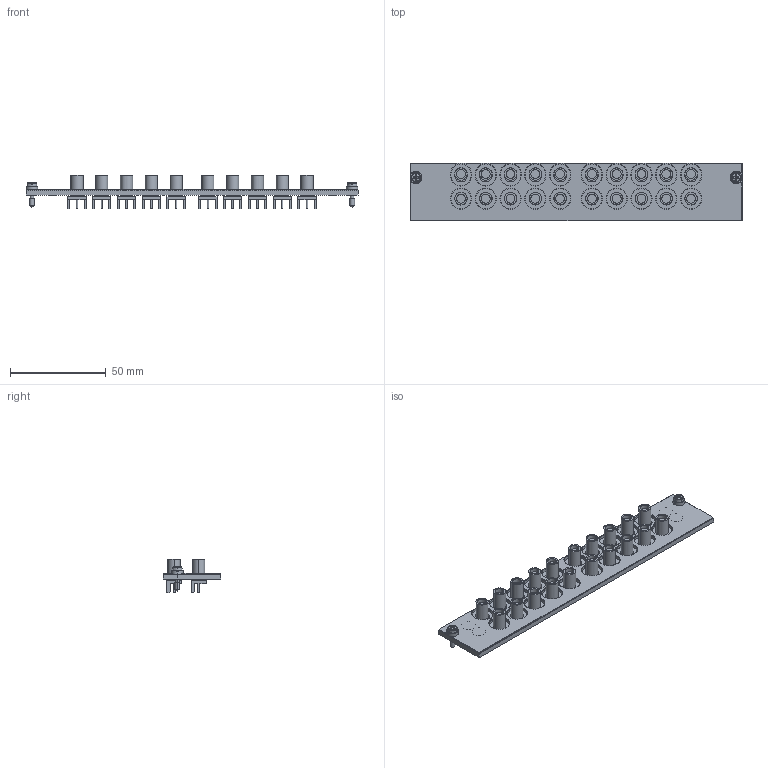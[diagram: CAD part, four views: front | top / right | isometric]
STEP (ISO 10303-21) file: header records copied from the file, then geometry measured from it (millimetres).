
FILE_DESCRIPTION((''),'2;1');
FILE_NAME('CU_SCXI-1194','2009-11-30T',('jjorden'),(''),'PRO/ENGINEER BY PARAMETRIC TECHNOLOGY CORPORATION, 2006080','PRO/ENGINEER BY PARAMETRIC TECHNOLOGY CORPORATION, 2006080','');
FILE_SCHEMA(('CONFIG_CONTROL_DESIGN'));
Length unit declared in the file: inch
Products named in the file (1): CU_SCXI-1194
Bounding box: 173.02 x 30.18 x 17.37 mm (x, y, z)
Volume: 19983.1 mm3; surface area: 24144.4 mm2
Topology: 21 solids, 21 shells, 1171 faces, 2944 edges, 1932 vertices
Faces by surface type: plane 771, cylinder 336, cone 56, torus 4, sphere 4
Entity records: 35130 total; most frequent: CARTESIAN_POINT 6183, DIRECTION 6050, ORIENTED_EDGE 5880, EDGE_CURVE 2940, VECTOR 2140, LINE 2140, AXIS2_PLACEMENT_3D 1955, VERTEX_POINT 1932
